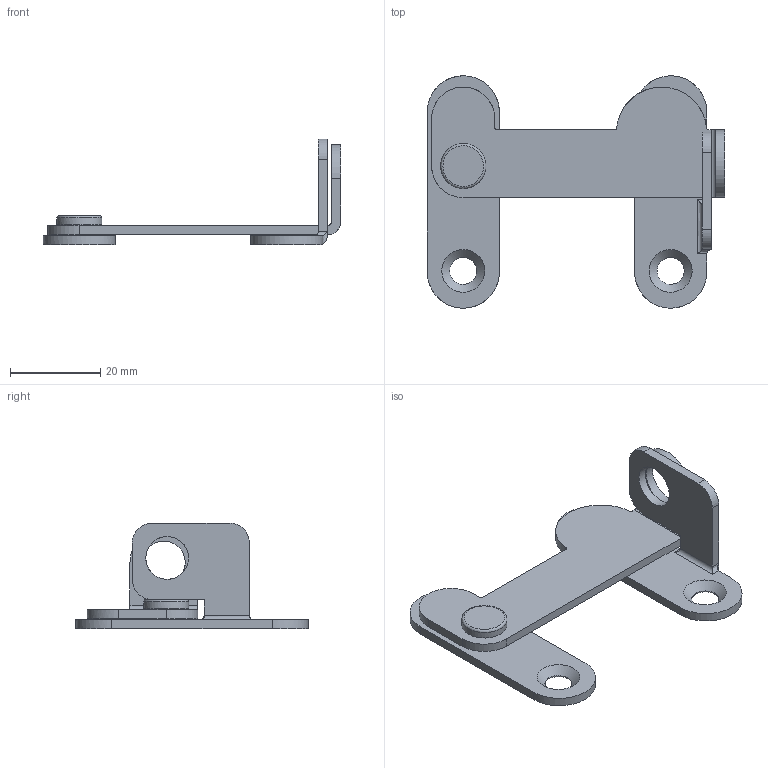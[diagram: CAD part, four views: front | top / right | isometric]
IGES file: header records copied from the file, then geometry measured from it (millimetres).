
Global section: file name: DR_GS2-5; native system: Autodesk Inventor 2015; preprocessor: unknown; author: CHANNEL&J; date: 20170831.111250; units: millimetre
Bounding box: 66 x 51.49 x 23.5 mm (x, y, z)
Volume: 6573.8 mm3; surface area: 7980.8 mm2
Topology: 4 solids, 4 shells, 64 faces, 166 edges, 111 vertices
Faces by surface type: bspline 64
